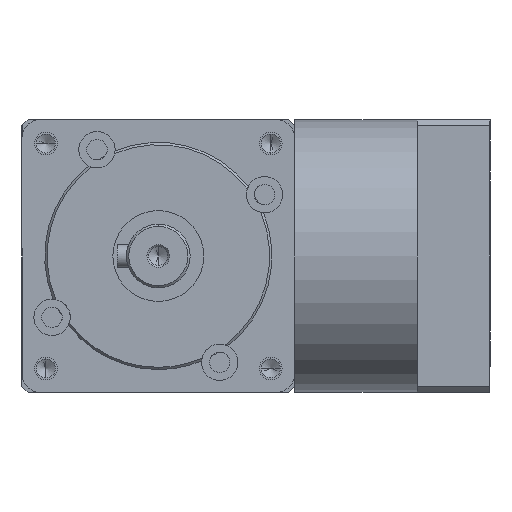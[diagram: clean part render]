
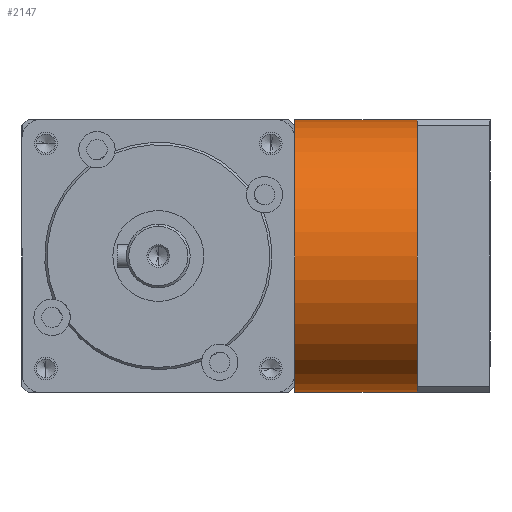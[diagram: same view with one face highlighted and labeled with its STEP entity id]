
A CAD part, front view. The second image highlights one B-rep face of the part: STEP entity #2147.
In plain terms, the highlighted cylindrical face has radius 30 mm (diameter 60 mm), a partial arc.
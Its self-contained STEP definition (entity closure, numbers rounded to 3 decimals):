
#1 = CARTESIAN_POINT ( 'NONE',  ( 57., -30., 0. ) ) ;
#58 = DIRECTION ( 'NONE',  ( -1., 0., 0. ) ) ;
#514 = EDGE_CURVE ( 'NONE', #9054, #9455, #1331, .T. ) ;
#548 = CARTESIAN_POINT ( 'NONE',  ( 57., 0., -30. ) ) ;
#710 = DIRECTION ( 'NONE',  ( 1., 0., 0. ) ) ;
#925 = VECTOR ( 'NONE', #58, 1000. ) ;
#1219 = VECTOR ( 'NONE', #12717, 1000. ) ;
#1331 = LINE ( 'NONE', #8133, #925 ) ;
#1500 = ORIENTED_EDGE ( 'NONE', *, *, #1961, .T. ) ;
#1880 = DIRECTION ( 'NONE',  ( 1., 0., 0. ) ) ;
#1961 = EDGE_CURVE ( 'NONE', #9455, #11635, #2532, .T. ) ;
#2147 = ADVANCED_FACE ( 'NONE', ( #2925 ), #15640, .T. ) ;
#2156 = AXIS2_PLACEMENT_3D ( 'NONE', #16106, #6626, #14744 ) ;
#2248 = ORIENTED_EDGE ( 'NONE', *, *, #4567, .F. ) ;
#2532 = CIRCLE ( 'NONE', #2156, 30. ) ;
#2925 = FACE_OUTER_BOUND ( 'NONE', #3604, .T. ) ;
#3604 = EDGE_LOOP ( 'NONE', ( #2248, #15813, #17487, #12833, #1500 ) ) ;
#4466 = DIRECTION ( 'NONE',  ( -1., 0., 0. ) ) ;
#4567 = EDGE_CURVE ( 'NONE', #15224, #11635, #8361, .T. ) ;
#5565 = AXIS2_PLACEMENT_3D ( 'NONE', #8788, #710, #10160 ) ;
#6104 = CARTESIAN_POINT ( 'NONE',  ( 30., 0., -30. ) ) ;
#6626 = DIRECTION ( 'NONE',  ( 1., 0., 0. ) ) ;
#8133 = CARTESIAN_POINT ( 'NONE',  ( 57., 0., 30. ) ) ;
#8361 = LINE ( 'NONE', #14082, #1219 ) ;
#8656 = VERTEX_POINT ( 'NONE', #1 ) ;
#8788 = CARTESIAN_POINT ( 'NONE',  ( 57., 0., 0. ) ) ;
#9054 = VERTEX_POINT ( 'NONE', #14222 ) ;
#9342 = CIRCLE ( 'NONE', #5565, 30. ) ;
#9455 = VERTEX_POINT ( 'NONE', #12363 ) ;
#9986 = CARTESIAN_POINT ( 'NONE',  ( 57., 0., 0. ) ) ;
#10160 = DIRECTION ( 'NONE',  ( 0., 0., -1. ) ) ;
#10478 = EDGE_CURVE ( 'NONE', #9054, #8656, #15848, .T. ) ;
#11349 = DIRECTION ( 'NONE',  ( 0., 0., -1. ) ) ;
#11635 = VERTEX_POINT ( 'NONE', #6104 ) ;
#12363 = CARTESIAN_POINT ( 'NONE',  ( 30., 0., 30. ) ) ;
#12576 = CARTESIAN_POINT ( 'NONE',  ( 57., 0., 0. ) ) ;
#12717 = DIRECTION ( 'NONE',  ( -1., 0., 0. ) ) ;
#12833 = ORIENTED_EDGE ( 'NONE', *, *, #514, .T. ) ;
#13590 = AXIS2_PLACEMENT_3D ( 'NONE', #12576, #4466, #15252 ) ;
#14082 = CARTESIAN_POINT ( 'NONE',  ( 57., 0., -30. ) ) ;
#14222 = CARTESIAN_POINT ( 'NONE',  ( 57., 0., 30. ) ) ;
#14744 = DIRECTION ( 'NONE',  ( 0., 0., -1. ) ) ;
#15224 = VERTEX_POINT ( 'NONE', #548 ) ;
#15252 = DIRECTION ( 'NONE',  ( 0., 0., 1. ) ) ;
#15640 = CYLINDRICAL_SURFACE ( 'NONE', #13590, 30. ) ;
#15813 = ORIENTED_EDGE ( 'NONE', *, *, #17531, .F. ) ;
#15848 = CIRCLE ( 'NONE', #16365, 30. ) ;
#16106 = CARTESIAN_POINT ( 'NONE',  ( 30., 0., 0. ) ) ;
#16365 = AXIS2_PLACEMENT_3D ( 'NONE', #9986, #1880, #11349 ) ;
#17487 = ORIENTED_EDGE ( 'NONE', *, *, #10478, .F. ) ;
#17531 = EDGE_CURVE ( 'NONE', #8656, #15224, #9342, .T. ) ;
